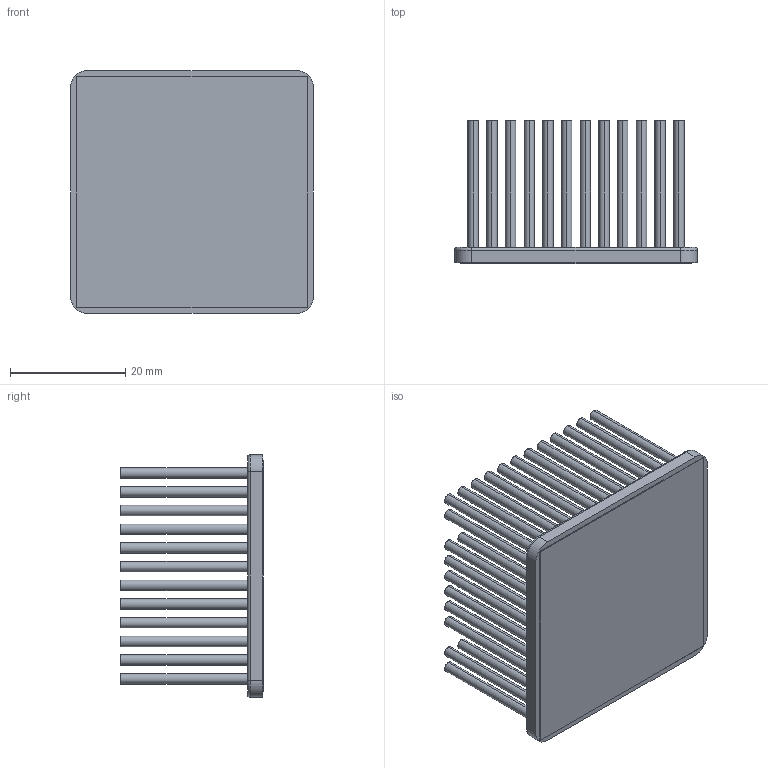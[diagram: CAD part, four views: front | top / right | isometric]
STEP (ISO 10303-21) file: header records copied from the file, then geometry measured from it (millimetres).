
FILE_DESCRIPTION (( 'STEP AP214' ), '1' );
FILE_NAME ('INM42.5002-25PCU-2.6.STEP', '2023-02-28T00:27:44', ( '' ), ( '' ), 'SwSTEP 2.0', 'SolidWorks 2020', '' );
FILE_SCHEMA (( 'AUTOMOTIVE_DESIGN' ));
Length unit declared in the file: inch
Products named in the file (1): INM42.5002-25PCU-2.6
Bounding box: 42.1 x 24.73 x 42.1 mm (x, y, z)
Volume: 12396.4 mm3; surface area: 24058.4 mm2
Topology: 2 solids, 2 shells, 432 faces, 868 edges, 576 vertices
Faces by surface type: cylinder 280, plane 148, torus 4
Entity records: 17199 total; most frequent: DIRECTION 2298, CARTESIAN_POINT 1877, ORIENTED_EDGE 1736, AXIS2_PLACEMENT_3D 997, EDGE_CURVE 868, VERTEX_POINT 576, EDGE_LOOP 568, CIRCLE 564
